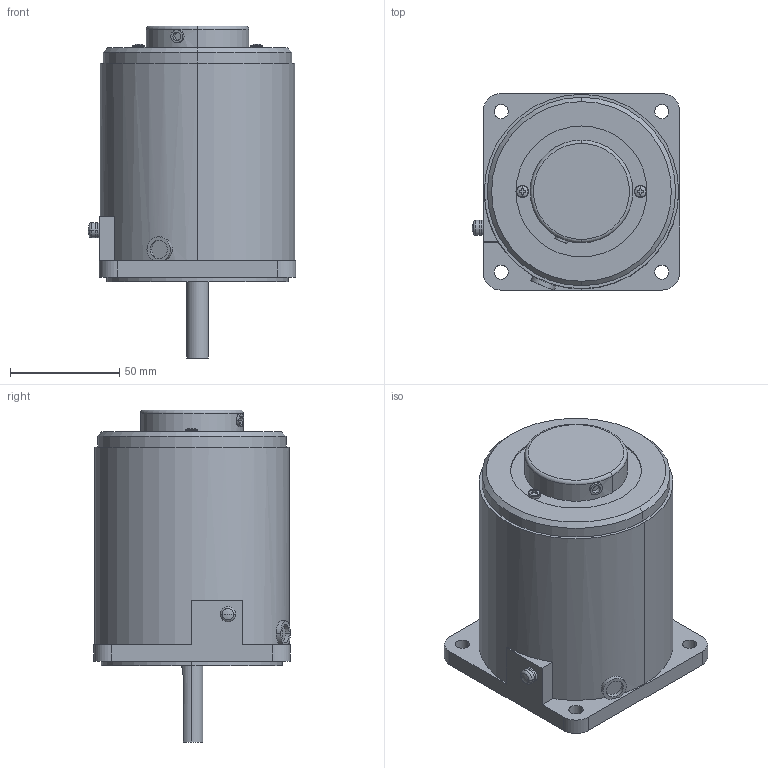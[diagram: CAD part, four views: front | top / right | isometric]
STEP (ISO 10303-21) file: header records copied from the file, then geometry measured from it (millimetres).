
FILE_DESCRIPTION (( 'STEP AP203' ), '1' );
FILE_NAME ('A1259.STEP', '2015-05-20T08:04:03', ( 'om' ), ( 'Hewlett-Packard Company' ), 'SwSTEP 2.0', 'SolidWorks 2014', '' );
FILE_SCHEMA (( 'CONFIG_CONTROL_DESIGN' ));
Length unit declared in the file: millimetre
Products named in the file (1): A1259
Bounding box: 95 x 90.16 x 152 mm (x, y, z)
Volume: 679637.7 mm3; surface area: 51520.3 mm2
Topology: 1 solids, 4 shells, 164 faces, 410 edges, 267 vertices
Faces by surface type: cylinder 93, plane 55, torus 8, sphere 6, cone 2
Entity records: 5284 total; most frequent: CARTESIAN_POINT 1075, DIRECTION 949, ORIENTED_EDGE 820, EDGE_CURVE 410, AXIS2_PLACEMENT_3D 389, VERTEX_POINT 267, CIRCLE 224, EDGE_LOOP 189
